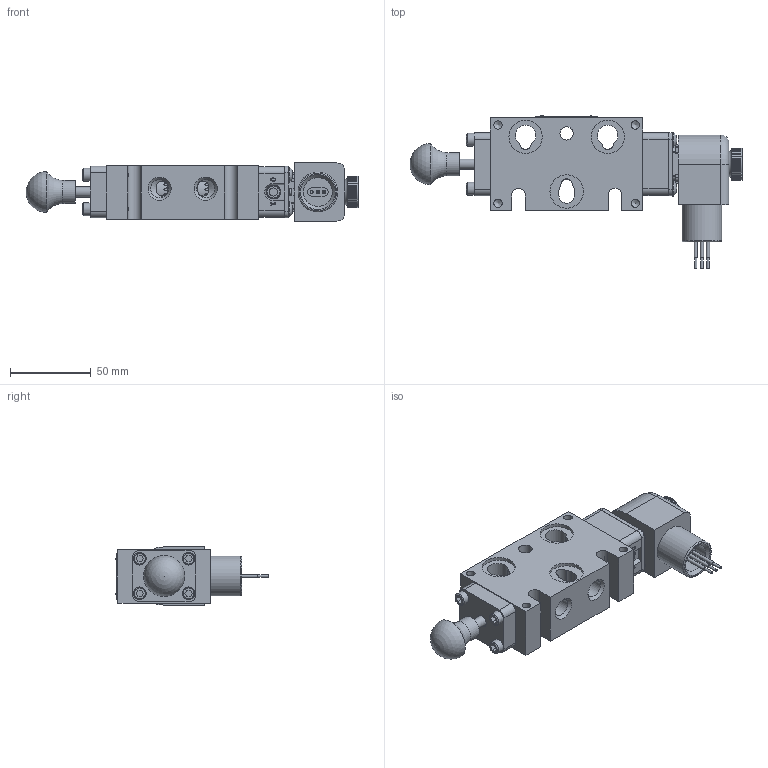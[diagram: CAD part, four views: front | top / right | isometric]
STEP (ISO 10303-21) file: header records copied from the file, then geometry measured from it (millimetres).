
FILE_DESCRIPTION(/* description */ (''),/* implementation_level */ '2;1');
FILE_NAME(/* name */ 'EBSO2XLOSZ.stp',/* time_stamp */ '2026-08-04T06:41:11-04:00',/* author */ ('rmckenna'),/* organization */ (''),/* preprocessor_version */ 'ST-DEVELOPER v20.1',/* originating_system */ 'Autodesk Inventor 2026',/* authorisation */ '');
FILE_SCHEMA (('AUTOMOTIVE_DESIGN { 1 0 10303 214 3 1 1 }'));
Length unit declared in the file: centimetre
Products named in the file (1): Part10
Bounding box: 205.33 x 94.25 x 36 mm (x, y, z)
Volume: 223497.7 mm3; surface area: 78833.5 mm2
Topology: 2 solids, 25 shells, 1486 faces, 3633 edges, 2322 vertices
Faces by surface type: plane 673, cylinder 430, cone 215, torus 116, bspline 45, sphere 7
Full cylindrical faces by diameter (mm): 1.3 x1, 1.397 x1, 1.5 x1, 1.524 x3, 2.032 x11, 2.07 x2, 2.261 x2, 2.35 x4, 2.778 x2, 2.8 x1, 2.819 x1, 3 x4, 3.048 x2, 3.175 x1, 3.4 x1, 3.683 x9, 4.191 x2, 4.826 x8, 4.953 x1, 4.978 x1, 5.105 x4, 5.15 x4, 5.156 x12, 5.5 x1, 6.35 x4, 6.553 x1, 7.315 x1, 7.671 x1, 7.938 x4, 8 x2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
Entity records: 48545 total; most frequent: CARTESIAN_POINT 11691, DIRECTION 7413, ORIENTED_EDGE 7234, EDGE_CURVE 3617, AXIS2_PLACEMENT_3D 2823, VERTEX_POINT 2320, LINE 1767, VECTOR 1767
